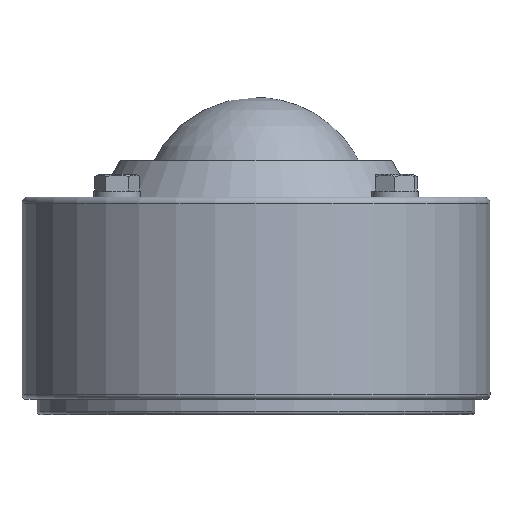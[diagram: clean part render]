
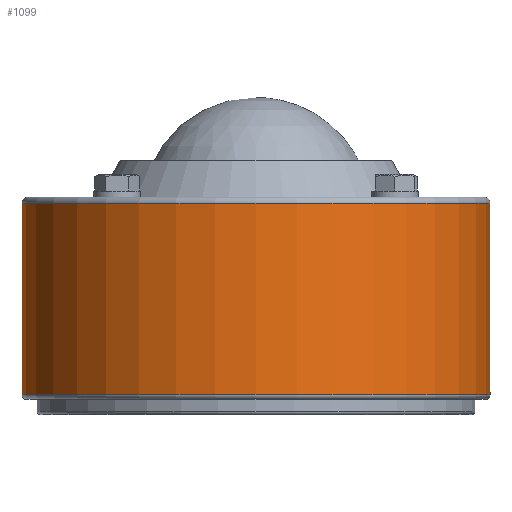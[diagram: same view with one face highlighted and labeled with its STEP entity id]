
A CAD part, front view. The second image highlights one B-rep face of the part: STEP entity #1099.
In plain terms, the highlighted cylindrical face has radius 77.5 mm (diameter 155 mm), a full revolution.
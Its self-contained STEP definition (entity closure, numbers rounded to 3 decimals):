
#30=CYLINDRICAL_SURFACE('',#1224,77.5);
#170=FACE_BOUND('',#433,.T.);
#318=FACE_OUTER_BOUND('',#432,.T.);
#432=EDGE_LOOP('',(#953));
#433=EDGE_LOOP('',(#954));
#487=CIRCLE('',#1223,77.5);
#488=CIRCLE('',#1225,77.5);
#580=VERTEX_POINT('',#2049);
#581=VERTEX_POINT('',#2052);
#705=EDGE_CURVE('',#580,#580,#487,.T.);
#706=EDGE_CURVE('',#581,#581,#488,.T.);
#953=ORIENTED_EDGE('',*,*,#706,.F.);
#954=ORIENTED_EDGE('',*,*,#705,.T.);
#1099=ADVANCED_FACE('',(#318,#170),#30,.T.);
#1223=AXIS2_PLACEMENT_3D('',#2050,#1517,#1518);
#1224=AXIS2_PLACEMENT_3D('',#2051,#1519,#1520);
#1225=AXIS2_PLACEMENT_3D('',#2053,#1521,#1522);
#1517=DIRECTION('center_axis',(0.,0.,-1.));
#1518=DIRECTION('ref_axis',(0.,1.,0.));
#1519=DIRECTION('center_axis',(0.,0.,-1.));
#1520=DIRECTION('ref_axis',(0.,1.,0.));
#1521=DIRECTION('center_axis',(0.,0.,-1.));
#1522=DIRECTION('ref_axis',(0.,1.,0.));
#2049=CARTESIAN_POINT('',(0.,77.5,70.));
#2050=CARTESIAN_POINT('Origin',(0.,0.,70.));
#2051=CARTESIAN_POINT('Origin',(0.,0.,38.25));
#2052=CARTESIAN_POINT('',(0.,77.5,6.5));
#2053=CARTESIAN_POINT('Origin',(0.,0.,6.5));
